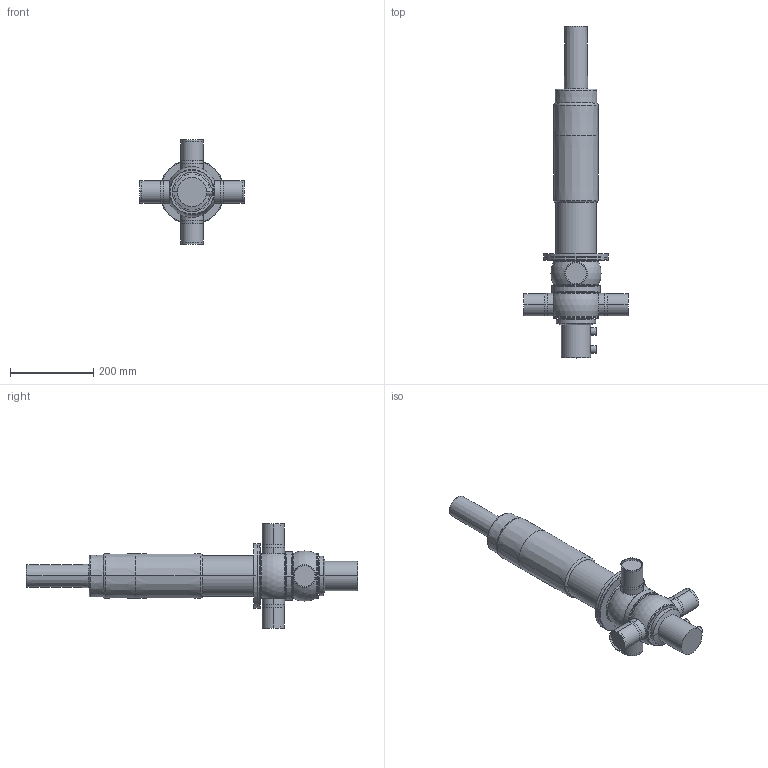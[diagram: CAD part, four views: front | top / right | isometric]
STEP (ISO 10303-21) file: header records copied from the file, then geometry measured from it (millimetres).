
FILE_DESCRIPTION(('Creo Elements/Direct Modeling STEP Export'),'2;1');
FILE_NAME('DA44-50_prox..stp','2019-09-04T15:27:26',(''),(''),'PTC Creo Elements/Direct Modeling STEP processor for AP214 (Solid Model)','PTC Creo Elements/Direct Modeling 19.0B 21-Mar-2015 (C) Parametric Technology GmbH','');
FILE_SCHEMA(('AUTOMOTIVE_DESIGN { 1 0 10303 214 1 1 1 1 }'));
Length unit declared in the file: millimetre
Products named in the file (5): D4_Prox._holder.; actuator_DA4-100_yoke; drain_pipe-62; housing_DA44-50; DA44-50_prox.
Assembly tree (4 placements, depth 2):
  DA44-50_prox.
    housing_DA44-50
    drain_pipe-62
    actuator_DA4-100_yoke
    D4_Prox._holder.
Bounding box: 250 x 795.35 x 250 mm (x, y, z)
Volume: 6431322.1 mm3; surface area: 401693.2 mm2
Topology: 4 solids, 4 shells, 144 faces, 311 edges, 189 vertices
Faces by surface type: cylinder 56, torus 32, plane 28, cone 24, sphere 4
Entity records: 4494 total; most frequent: CARTESIAN_POINT 1485, ORIENTED_EDGE 622, DIRECTION 606, EDGE_CURVE 311, AXIS2_PLACEMENT_3D 263, VERTEX_POINT 189, EDGE_LOOP 158, FACE_OUTER_BOUND 144
